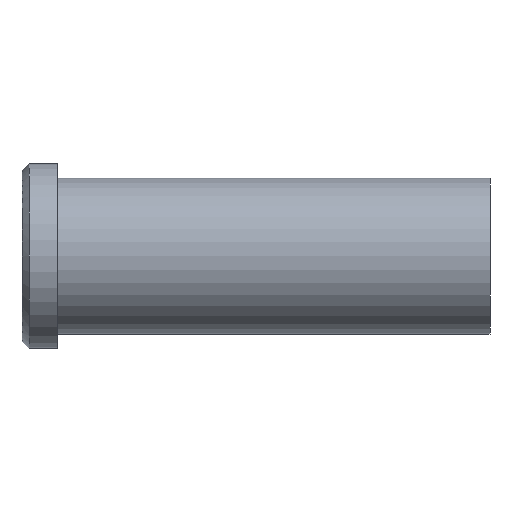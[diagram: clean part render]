
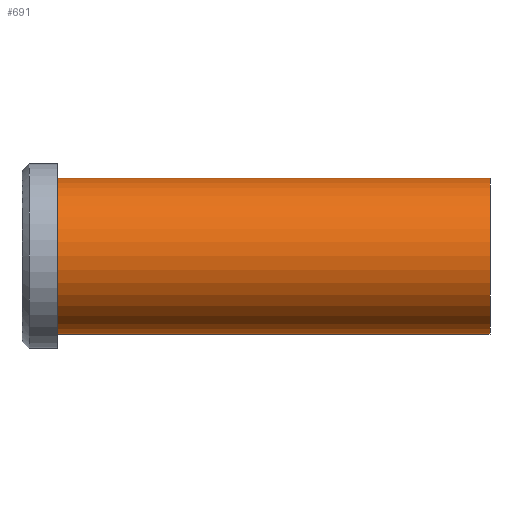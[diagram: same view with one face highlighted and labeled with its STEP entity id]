
A CAD part, front view. The second image highlights one B-rep face of the part: STEP entity #691.
In plain terms, the highlighted cylindrical face has radius 11 mm (diameter 22 mm), a partial arc.
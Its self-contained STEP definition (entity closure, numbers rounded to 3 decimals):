
#501=CARTESIAN_POINT('Vertex',(0.,0.,-11.)) ;
#506=CARTESIAN_POINT('Axis2P3D Location',(0.,0.,0.)) ;
#510=CARTESIAN_POINT('Vertex',(0.,-11.,0.)) ;
#513=CARTESIAN_POINT('Axis2P3D Location',(0.,0.,0.)) ;
#517=CARTESIAN_POINT('Vertex',(0.,0.,11.)) ;
#631=CARTESIAN_POINT('Line Origine',(61.,0.,11.)) ;
#635=CARTESIAN_POINT('Vertex',(61.,0.,11.)) ;
#649=CARTESIAN_POINT('Vertex',(61.,0.,-11.)) ;
#652=CARTESIAN_POINT('Line Origine',(61.,0.,-11.)) ;
#666=CARTESIAN_POINT('Axis2P3D Location',(61.,0.,0.)) ;
#671=CARTESIAN_POINT('Axis2P3D Location',(61.,0.,0.)) ;
#675=CARTESIAN_POINT('Vertex',(61.,-11.,0.)) ;
#678=CARTESIAN_POINT('Axis2P3D Location',(61.,0.,0.)) ;
#507=DIRECTION('Axis2P3D Direction',(1.,0.,-0.)) ;
#514=DIRECTION('Axis2P3D Direction',(1.,0.,-0.)) ;
#632=DIRECTION('Vector Direction',(-1.,0.,0.)) ;
#653=DIRECTION('Vector Direction',(-1.,0.,0.)) ;
#667=DIRECTION('Axis2P3D Direction',(-1.,-0.,-0.)) ;
#668=DIRECTION('Axis2P3D XDirection',(0.,0.,-1.)) ;
#672=DIRECTION('Axis2P3D Direction',(-1.,-0.,-0.)) ;
#679=DIRECTION('Axis2P3D Direction',(-1.,-0.,-0.)) ;
#508=AXIS2_PLACEMENT_3D('Circle Axis2P3D',#506,#507,$) ;
#515=AXIS2_PLACEMENT_3D('Circle Axis2P3D',#513,#514,$) ;
#669=AXIS2_PLACEMENT_3D('Cylinder Axis2P3D',#666,#667,#668) ;
#673=AXIS2_PLACEMENT_3D('Circle Axis2P3D',#671,#672,$) ;
#680=AXIS2_PLACEMENT_3D('Circle Axis2P3D',#678,#679,$) ;
#684=ORIENTED_EDGE('',*,*,#656,.T.) ;
#685=ORIENTED_EDGE('',*,*,#677,.F.) ;
#686=ORIENTED_EDGE('',*,*,#682,.F.) ;
#687=ORIENTED_EDGE('',*,*,#637,.T.) ;
#688=ORIENTED_EDGE('',*,*,#519,.T.) ;
#689=ORIENTED_EDGE('',*,*,#512,.T.) ;
#633=VECTOR('Line Direction',#632,1.) ;
#654=VECTOR('Line Direction',#653,1.) ;
#691=ADVANCED_FACE('353-16X66',(#690),#670,.T.) ;
#509=CIRCLE('generated circle',#508,11.) ;
#516=CIRCLE('generated circle',#515,11.) ;
#674=CIRCLE('generated circle',#673,11.) ;
#681=CIRCLE('generated circle',#680,11.) ;
#670=CYLINDRICAL_SURFACE('generated cylinder',#669,11.) ;
#512=EDGE_CURVE('',#511,#502,#509,.T.) ;
#519=EDGE_CURVE('',#518,#511,#516,.T.) ;
#637=EDGE_CURVE('',#636,#518,#634,.T.) ;
#656=EDGE_CURVE('',#502,#650,#655,.F.) ;
#677=EDGE_CURVE('',#676,#650,#674,.F.) ;
#682=EDGE_CURVE('',#636,#676,#681,.F.) ;
#683=EDGE_LOOP('',(#684,#685,#686,#687,#688,#689)) ;
#690=FACE_OUTER_BOUND('',#683,.T.) ;
#634=LINE('Line',#631,#633) ;
#655=LINE('Line',#652,#654) ;
#502=VERTEX_POINT('',#501) ;
#511=VERTEX_POINT('',#510) ;
#518=VERTEX_POINT('',#517) ;
#636=VERTEX_POINT('',#635) ;
#650=VERTEX_POINT('',#649) ;
#676=VERTEX_POINT('',#675) ;
